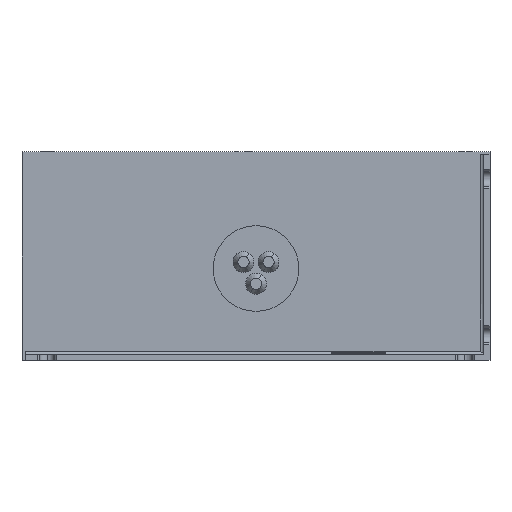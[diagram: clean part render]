
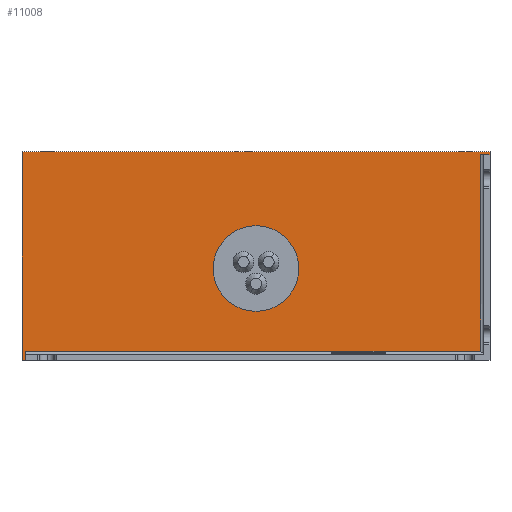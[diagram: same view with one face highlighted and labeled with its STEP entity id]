
A CAD part, front view. The second image highlights one B-rep face of the part: STEP entity #11008.
In plain terms, the highlighted planar face has unit normal (0, -1, 0).
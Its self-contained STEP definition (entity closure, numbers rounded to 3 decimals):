
#66 = EDGE_CURVE ( 'NONE', #5327, #3519, #648, .T. ) ;
#84 = VECTOR ( 'NONE', #13057, 1000. ) ;
#110 = DIRECTION ( 'NONE',  ( 0., 0., -1. ) ) ;
#216 = LINE ( 'NONE', #3607, #84 ) ;
#230 = VERTEX_POINT ( 'NONE', #7138 ) ;
#317 = CARTESIAN_POINT ( 'NONE',  ( -109.75, -402., -447.991 ) ) ;
#593 = AXIS2_PLACEMENT_3D ( 'NONE', #2778, #12044, #4868 ) ;
#648 = LINE ( 'NONE', #2664, #5511 ) ;
#850 = VECTOR ( 'NONE', #4100, 1000. ) ;
#1181 = LINE ( 'NONE', #13054, #7890 ) ;
#1389 = ORIENTED_EDGE ( 'NONE', *, *, #11871, .F. ) ;
#2023 = LINE ( 'NONE', #12582, #850 ) ;
#2636 = DIRECTION ( 'NONE',  ( 1., 0., 0. ) ) ;
#2664 = CARTESIAN_POINT ( 'NONE',  ( -111.251, -402., 97. ) ) ;
#2686 = VERTEX_POINT ( 'NONE', #8557 ) ;
#2772 = VERTEX_POINT ( 'NONE', #10772 ) ;
#2778 = CARTESIAN_POINT ( 'NONE',  ( 0.75, -402., 41. ) ) ;
#3030 = VECTOR ( 'NONE', #5527, 1000. ) ;
#3070 = EDGE_CURVE ( 'NONE', #6425, #11921, #3783, .T. ) ;
#3138 = CARTESIAN_POINT ( 'NONE',  ( 108.25, -402., 95.5 ) ) ;
#3251 = CIRCLE ( 'NONE', #593, 20.5 ) ;
#3380 = ORIENTED_EDGE ( 'NONE', *, *, #5802, .F. ) ;
#3460 = EDGE_CURVE ( 'NONE', #12025, #3519, #1181, .T. ) ;
#3519 = VERTEX_POINT ( 'NONE', #8689 ) ;
#3607 = CARTESIAN_POINT ( 'NONE',  ( -111.251, -402., -447.991 ) ) ;
#3644 = ORIENTED_EDGE ( 'NONE', *, *, #3460, .T. ) ;
#3685 = AXIS2_PLACEMENT_3D ( 'NONE', #6508, #13676, #12072 ) ;
#3783 = LINE ( 'NONE', #12263, #4159 ) ;
#3968 = ORIENTED_EDGE ( 'NONE', *, *, #66, .F. ) ;
#4100 = DIRECTION ( 'NONE',  ( -1., 0., 0. ) ) ;
#4118 = CARTESIAN_POINT ( 'NONE',  ( -111.251, -402., 97. ) ) ;
#4159 = VECTOR ( 'NONE', #5736, 1000. ) ;
#4245 = EDGE_LOOP ( 'NONE', ( #9226, #8066, #3644, #3968, #12930, #6699, #3380, #1389 ) ) ;
#4370 = EDGE_CURVE ( 'NONE', #7911, #5327, #216, .T. ) ;
#4617 = AXIS2_PLACEMENT_3D ( 'NONE', #5865, #13366, #6137 ) ;
#4868 = DIRECTION ( 'NONE',  ( 0., 0., -1. ) ) ;
#5260 = VECTOR ( 'NONE', #2636, 1000. ) ;
#5327 = VERTEX_POINT ( 'NONE', #4118 ) ;
#5511 = VECTOR ( 'NONE', #5718, 1000. ) ;
#5527 = DIRECTION ( 'NONE',  ( 1., 0., 0. ) ) ;
#5661 = ORIENTED_EDGE ( 'NONE', *, *, #10270, .F. ) ;
#5718 = DIRECTION ( 'NONE',  ( 1., 0., 0. ) ) ;
#5736 = DIRECTION ( 'NONE',  ( 0., 0., -1. ) ) ;
#5802 = EDGE_CURVE ( 'NONE', #6881, #2772, #11781, .T. ) ;
#5865 = CARTESIAN_POINT ( 'NONE',  ( -111.251, -402., -447.991 ) ) ;
#6137 = DIRECTION ( 'NONE',  ( 0., 0., -1. ) ) ;
#6425 = VERTEX_POINT ( 'NONE', #3138 ) ;
#6501 = CARTESIAN_POINT ( 'NONE',  ( -111.251, -402., -3. ) ) ;
#6508 = CARTESIAN_POINT ( 'NONE',  ( 0.75, -402., 41. ) ) ;
#6699 = ORIENTED_EDGE ( 'NONE', *, *, #8615, .T. ) ;
#6803 = CARTESIAN_POINT ( 'NONE',  ( 112.75, -402., 95.5 ) ) ;
#6881 = VERTEX_POINT ( 'NONE', #8114 ) ;
#7138 = CARTESIAN_POINT ( 'NONE',  ( 0.75, -402., 61.5 ) ) ;
#7783 = DIRECTION ( 'NONE',  ( 0., 0., 1. ) ) ;
#7890 = VECTOR ( 'NONE', #7783, 1000. ) ;
#7911 = VERTEX_POINT ( 'NONE', #6501 ) ;
#8066 = ORIENTED_EDGE ( 'NONE', *, *, #10843, .T. ) ;
#8114 = CARTESIAN_POINT ( 'NONE',  ( -109.75, -402., 1.5 ) ) ;
#8557 = CARTESIAN_POINT ( 'NONE',  ( 0.75, -402., 20.5 ) ) ;
#8615 = EDGE_CURVE ( 'NONE', #7911, #2772, #10909, .T. ) ;
#8689 = CARTESIAN_POINT ( 'NONE',  ( 112.75, -402., 97. ) ) ;
#8833 = CARTESIAN_POINT ( 'NONE',  ( -111.251, -402., -3. ) ) ;
#9226 = ORIENTED_EDGE ( 'NONE', *, *, #3070, .F. ) ;
#9259 = CARTESIAN_POINT ( 'NONE',  ( 108.25, -402., 1.5 ) ) ;
#9581 = EDGE_CURVE ( 'NONE', #2686, #230, #11014, .T. ) ;
#10117 = FACE_BOUND ( 'NONE', #11654, .T. ) ;
#10270 = EDGE_CURVE ( 'NONE', #230, #2686, #3251, .T. ) ;
#10772 = CARTESIAN_POINT ( 'NONE',  ( -109.75, -402., -3. ) ) ;
#10843 = EDGE_CURVE ( 'NONE', #6425, #12025, #11721, .T. ) ;
#10909 = LINE ( 'NONE', #8833, #5260 ) ;
#11008 = ADVANCED_FACE ( 'NONE', ( #11353, #10117 ), #12325, .T. ) ;
#11014 = CIRCLE ( 'NONE', #3685, 20.5 ) ;
#11205 = VECTOR ( 'NONE', #110, 1000. ) ;
#11353 = FACE_OUTER_BOUND ( 'NONE', #4245, .T. ) ;
#11654 = EDGE_LOOP ( 'NONE', ( #5661, #11938 ) ) ;
#11721 = LINE ( 'NONE', #12823, #3030 ) ;
#11781 = LINE ( 'NONE', #317, #11205 ) ;
#11871 = EDGE_CURVE ( 'NONE', #11921, #6881, #2023, .T. ) ;
#11921 = VERTEX_POINT ( 'NONE', #9259 ) ;
#11938 = ORIENTED_EDGE ( 'NONE', *, *, #9581, .F. ) ;
#12025 = VERTEX_POINT ( 'NONE', #6803 ) ;
#12044 = DIRECTION ( 'NONE',  ( 0., -1., 0. ) ) ;
#12072 = DIRECTION ( 'NONE',  ( 0., 0., -1. ) ) ;
#12263 = CARTESIAN_POINT ( 'NONE',  ( 108.25, -402., 93. ) ) ;
#12325 = PLANE ( 'NONE',  #4617 ) ;
#12582 = CARTESIAN_POINT ( 'NONE',  ( 111.25, -402., 1.5 ) ) ;
#12823 = CARTESIAN_POINT ( 'NONE',  ( -111.251, -402., 95.5 ) ) ;
#12930 = ORIENTED_EDGE ( 'NONE', *, *, #4370, .F. ) ;
#13054 = CARTESIAN_POINT ( 'NONE',  ( 112.75, -402., -447.991 ) ) ;
#13057 = DIRECTION ( 'NONE',  ( 0., 0., 1. ) ) ;
#13366 = DIRECTION ( 'NONE',  ( 0., -1., 0. ) ) ;
#13676 = DIRECTION ( 'NONE',  ( 0., -1., 0. ) ) ;
